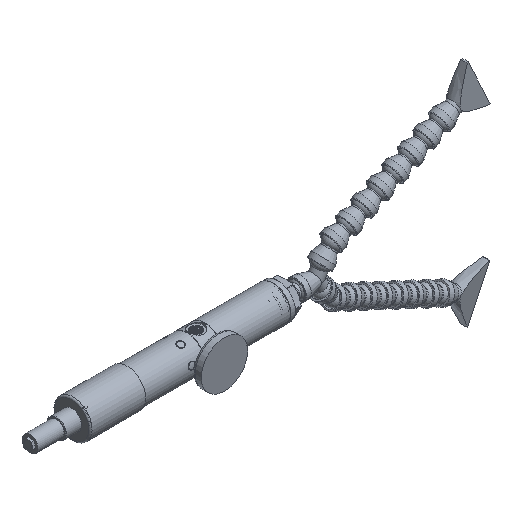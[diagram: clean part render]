
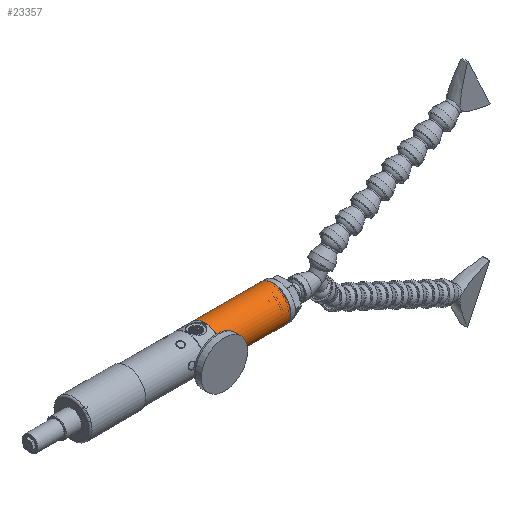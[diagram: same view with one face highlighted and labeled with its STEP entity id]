
A CAD part, isometric view. The second image highlights one B-rep face of the part: STEP entity #23357.
In plain terms, the highlighted cylindrical face has radius 21.5 mm (diameter 43 mm), a full revolution.
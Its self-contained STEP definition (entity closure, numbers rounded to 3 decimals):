
#959 = FACE_OUTER_BOUND ( 'NONE', #17772, .T. ) ;
#2622 = EDGE_CURVE ( 'NONE', #22484, #22484, #61492, .T. ) ;
#6313 = AXIS2_PLACEMENT_3D ( 'NONE', #61703, #50809, #14511 ) ;
#7264 = DIRECTION ( 'NONE',  ( 1., 0., 0. ) ) ;
#8796 = ORIENTED_EDGE ( 'NONE', *, *, #38862, .T. ) ;
#11180 = AXIS2_PLACEMENT_3D ( 'NONE', #37965, #65290, #38637 ) ;
#12745 = DIRECTION ( 'NONE',  ( 0., -0.937, -0.35 ) ) ;
#13881 = CARTESIAN_POINT ( 'NONE',  ( 94.45, 14.859, -7.524 ) ) ;
#14511 = DIRECTION ( 'NONE',  ( 0., -0.937, -0.35 ) ) ;
#17772 = EDGE_LOOP ( 'NONE', ( #32939 ) ) ;
#19189 = EDGE_LOOP ( 'NONE', ( #8796 ) ) ;
#21204 = FACE_OUTER_BOUND ( 'NONE', #19189, .T. ) ;
#22484 = VERTEX_POINT ( 'NONE', #26975 ) ;
#22753 = CIRCLE ( 'NONE', #6313, 21.5 ) ;
#23357 = ADVANCED_FACE ( 'NONE', ( #959, #21204 ), #57421, .T. ) ;
#26975 = CARTESIAN_POINT ( 'NONE',  ( 10.95, 14.859, -7.524 ) ) ;
#32051 = AXIS2_PLACEMENT_3D ( 'NONE', #54173, #7264, #12745 ) ;
#32939 = ORIENTED_EDGE ( 'NONE', *, *, #2622, .T. ) ;
#37965 = CARTESIAN_POINT ( 'NONE',  ( 10.7, 35., 0. ) ) ;
#38637 = DIRECTION ( 'NONE',  ( 0., 0.937, 0.35 ) ) ;
#38862 = EDGE_CURVE ( 'NONE', #66881, #66881, #22753, .T. ) ;
#50809 = DIRECTION ( 'NONE',  ( -1., 0., 0. ) ) ;
#54173 = CARTESIAN_POINT ( 'NONE',  ( 10.95, 35., 0. ) ) ;
#57421 = CYLINDRICAL_SURFACE ( 'NONE', #11180, 21.5 ) ;
#61492 = CIRCLE ( 'NONE', #32051, 21.5 ) ;
#61703 = CARTESIAN_POINT ( 'NONE',  ( 94.45, 35., 0. ) ) ;
#65290 = DIRECTION ( 'NONE',  ( 1., 0., 0. ) ) ;
#66881 = VERTEX_POINT ( 'NONE', #13881 ) ;
